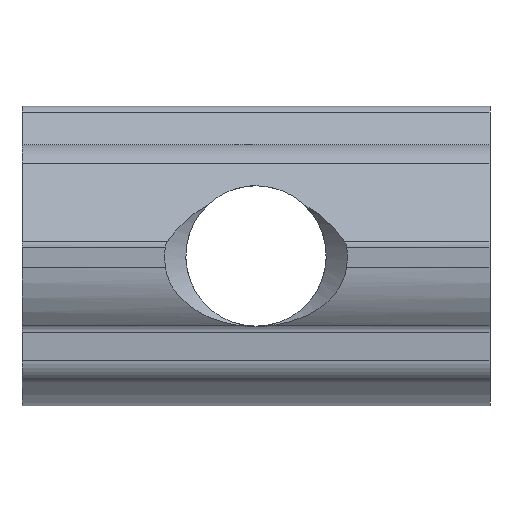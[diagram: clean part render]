
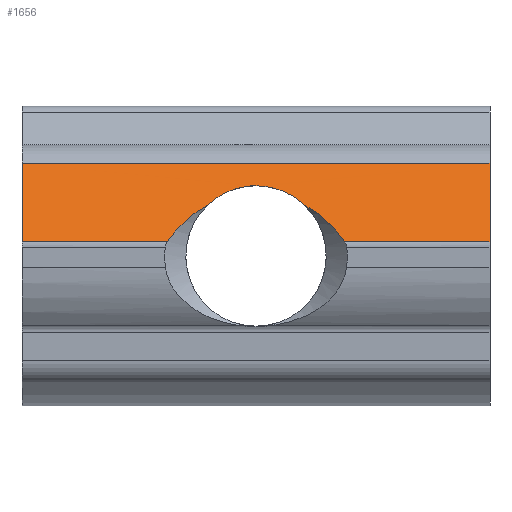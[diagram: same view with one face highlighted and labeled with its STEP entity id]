
A CAD part, front view. The second image highlights one B-rep face of the part: STEP entity #1656.
In plain terms, the highlighted planar face has unit normal (0, -0.883, 0.469).
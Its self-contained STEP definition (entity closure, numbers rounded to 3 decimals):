
#187=CARTESIAN_POINT('',(-5.698,9.778,13.033));
#188=VERTEX_POINT('',#187);
#198=CARTESIAN_POINT('',(14.302,9.778,13.033));
#199=VERTEX_POINT('',#198);
#200=CARTESIAN_POINT('',(-5.698,9.778,13.033));
#201=DIRECTION('',(1.0,0.0,0.0));
#202=VECTOR('',#201,20.0);
#203=LINE('',#200,#202);
#204=EDGE_CURVE('',#188,#199,#203,.T.);
#1277=CARTESIAN_POINT('',(8.094,7.998,9.685));
#1278=VERTEX_POINT('',#1277);
#1286=CARTESIAN_POINT('',(6.349,8.84,11.268));
#1287=VERTEX_POINT('',#1286);
#1288=CARTESIAN_POINT('',(6.349,8.84,11.268));
#1289=CARTESIAN_POINT('',(6.934,8.671,10.952));
#1290=CARTESIAN_POINT('',(7.432,8.441,10.518));
#1291=CARTESIAN_POINT('',(7.835,8.18,10.028));
#1292=CARTESIAN_POINT('',(7.926,8.121,9.917));
#1293=CARTESIAN_POINT('',(8.013,8.06,9.802));
#1294=CARTESIAN_POINT('',(8.094,7.998,9.685));
#1295=B_SPLINE_CURVE_WITH_KNOTS('',3,(#1288,#1289,#1290,#1291,#1292,#1293,#1294),.UNSPECIFIED.,.F.,.U.,(4,3,4),(0.0,0.815,1.0),.UNSPECIFIED.);
#1296=EDGE_CURVE('',#1287,#1278,#1295,.T.);
#1313=CARTESIAN_POINT('',(14.302,7.998,9.685));
#1314=VERTEX_POINT('',#1313);
#1322=CARTESIAN_POINT('',(8.094,7.998,9.685));
#1323=DIRECTION('',(1.0,0.,0.));
#1324=VECTOR('',#1323,6.207);
#1325=LINE('',#1322,#1324);
#1326=EDGE_CURVE('',#1278,#1314,#1325,.T.);
#1361=CARTESIAN_POINT('',(14.302,7.998,9.685));
#1362=DIRECTION('',(0.0,0.469,0.883));
#1363=VECTOR('',#1362,3.791);
#1364=LINE('',#1361,#1363);
#1365=EDGE_CURVE('',#1314,#199,#1364,.T.);
#1458=CARTESIAN_POINT('',(-5.698,7.998,9.685));
#1459=VERTEX_POINT('',#1458);
#1467=CARTESIAN_POINT('',(-5.698,9.778,13.033));
#1468=DIRECTION('',(0.0,-0.469,-0.883));
#1469=VECTOR('',#1468,3.791);
#1470=LINE('',#1467,#1469);
#1471=EDGE_CURVE('',#188,#1459,#1470,.T.);
#1544=CARTESIAN_POINT('',(0.509,7.998,9.685));
#1545=VERTEX_POINT('',#1544);
#1553=CARTESIAN_POINT('',(-5.698,7.998,9.685));
#1554=DIRECTION('',(1.0,0.,0.));
#1555=VECTOR('',#1554,6.207);
#1556=LINE('',#1553,#1555);
#1557=EDGE_CURVE('',#1459,#1545,#1556,.T.);
#1567=CARTESIAN_POINT('',(4.302,9.268,12.075));
#1568=VERTEX_POINT('',#1567);
#1575=CARTESIAN_POINT('',(2.255,8.84,11.268));
#1576=VERTEX_POINT('',#1575);
#1577=CARTESIAN_POINT('',(2.255,8.84,11.268));
#1578=CARTESIAN_POINT('',(2.597,9.01,11.588));
#1579=CARTESIAN_POINT('',(3.029,9.142,11.836));
#1580=CARTESIAN_POINT('',(3.505,9.212,11.967));
#1581=CARTESIAN_POINT('',(3.763,9.249,12.038));
#1582=CARTESIAN_POINT('',(4.032,9.269,12.075));
#1583=CARTESIAN_POINT('',(4.302,9.269,12.075));
#1584=B_SPLINE_CURVE_WITH_KNOTS('',3,(#1577,#1578,#1579,#1580,#1581,#1582,#1583),.UNSPECIFIED.,.F.,.U.,(4,3,4),(0.0,0.297,0.458),.UNSPECIFIED.);
#1585=EDGE_CURVE('',#1576,#1568,#1584,.T.);
#1616=CARTESIAN_POINT('',(14.302,8.888,11.359));
#1617=DIRECTION('',(0.0,-0.883,0.469));
#1618=DIRECTION('',(0.0,-0.469,-0.883));
#1619=AXIS2_PLACEMENT_3D('',#1616,#1617,#1618);
#1620=PLANE('',#1619);
#1621=CARTESIAN_POINT('',(0.867,8.242,10.144));
#1622=VERTEX_POINT('',#1621);
#1623=CARTESIAN_POINT('',(2.255,8.84,11.268));
#1624=CARTESIAN_POINT('',(1.716,8.685,10.977));
#1625=CARTESIAN_POINT('',(1.251,8.477,10.587));
#1626=CARTESIAN_POINT('',(0.867,8.242,10.144));
#1627=QUASI_UNIFORM_CURVE('',3,(#1623,#1624,#1625,#1626),.UNSPECIFIED.,.F.,.U.);
#1628=EDGE_CURVE('',#1576,#1622,#1627,.T.);
#1629=ORIENTED_EDGE('',*,*,#1628,.F.);
#1630=ORIENTED_EDGE('',*,*,#1585,.T.);
#1631=CARTESIAN_POINT('',(4.302,9.269,12.075));
#1632=CARTESIAN_POINT('',(4.781,9.269,12.075));
#1633=CARTESIAN_POINT('',(5.257,9.206,11.957));
#1634=CARTESIAN_POINT('',(5.671,9.093,11.744));
#1635=CARTESIAN_POINT('',(5.921,9.025,11.616));
#1636=CARTESIAN_POINT('',(6.15,8.939,11.454));
#1637=CARTESIAN_POINT('',(6.349,8.84,11.268));
#1638=B_SPLINE_CURVE_WITH_KNOTS('',3,(#1631,#1632,#1633,#1634,#1635,#1636,#1637),.UNSPECIFIED.,.F.,.U.,(4,3,4),(0.458,0.796,1.0),.UNSPECIFIED.);
#1639=EDGE_CURVE('',#1568,#1287,#1638,.T.);
#1640=ORIENTED_EDGE('',*,*,#1639,.T.);
#1641=ORIENTED_EDGE('',*,*,#1296,.T.);
#1642=ORIENTED_EDGE('',*,*,#1326,.T.);
#1643=ORIENTED_EDGE('',*,*,#1365,.T.);
#1644=ORIENTED_EDGE('',*,*,#204,.F.);
#1645=ORIENTED_EDGE('',*,*,#1471,.T.);
#1646=ORIENTED_EDGE('',*,*,#1557,.T.);
#1647=CARTESIAN_POINT('',(0.867,8.242,10.144));
#1648=CARTESIAN_POINT('',(0.739,8.164,9.997));
#1649=CARTESIAN_POINT('',(0.62,8.082,9.844));
#1650=CARTESIAN_POINT('',(0.509,7.998,9.685));
#1651=QUASI_UNIFORM_CURVE('',3,(#1647,#1648,#1649,#1650),.UNSPECIFIED.,.F.,.U.);
#1652=EDGE_CURVE('',#1622,#1545,#1651,.T.);
#1653=ORIENTED_EDGE('',*,*,#1652,.F.);
#1654=EDGE_LOOP('',(#1629,#1630,#1640,#1641,#1642,#1643,#1644,#1645,#1646,#1653));
#1655=FACE_OUTER_BOUND('',#1654,.T.);
#1656=ADVANCED_FACE('',(#1655),#1620,.T.);
